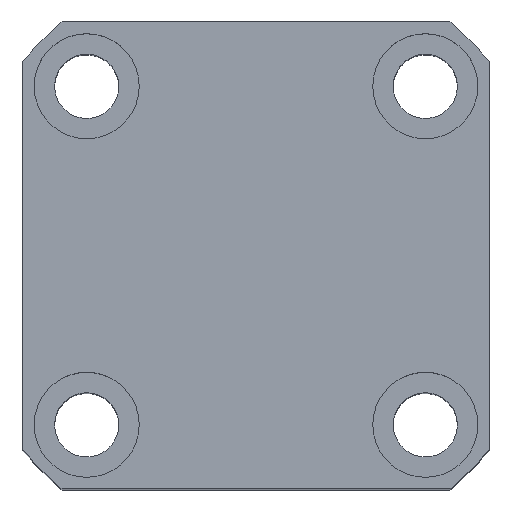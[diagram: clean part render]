
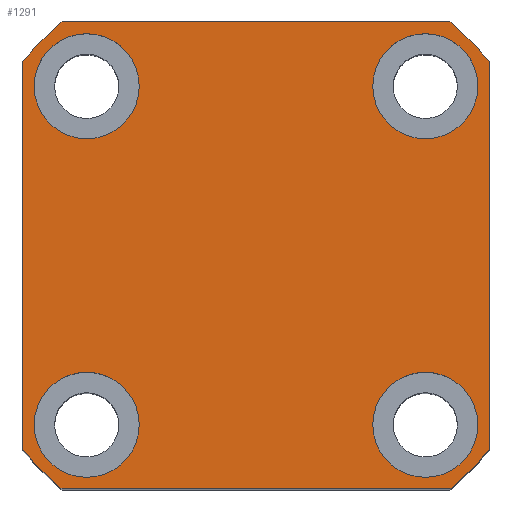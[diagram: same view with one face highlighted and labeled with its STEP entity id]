
A CAD part, top view. The second image highlights one B-rep face of the part: STEP entity #1291.
In plain terms, the highlighted planar face has unit normal (0, 0, 1).
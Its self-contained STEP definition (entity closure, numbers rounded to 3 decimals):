
#125 = VERTEX_POINT ( 'NONE', #3584 ) ;
#185 = EDGE_CURVE ( 'NONE', #8807, #10224, #13264, .T. ) ;
#195 = CARTESIAN_POINT ( 'NONE',  ( 38., 29., 50. ) ) ;
#242 = CIRCLE ( 'NONE', #12110, 9. ) ;
#343 = CARTESIAN_POINT ( 'NONE',  ( 40., -33.226, 50. ) ) ;
#417 = CIRCLE ( 'NONE', #3877, 9. ) ;
#626 = VERTEX_POINT ( 'NONE', #10342 ) ;
#750 = DIRECTION ( 'NONE',  ( 1., 0., 0. ) ) ;
#882 = CARTESIAN_POINT ( 'NONE',  ( 20., 29., 50. ) ) ;
#965 = FACE_BOUND ( 'NONE', #5981, .T. ) ;
#975 = DIRECTION ( 'NONE',  ( 1., 0., 0. ) ) ;
#1291 = ADVANCED_FACE ( 'NONE', ( #7574, #9153, #965, #13962, #12724 ), #11383, .T. ) ;
#1328 = ORIENTED_EDGE ( 'NONE', *, *, #2627, .F. ) ;
#1399 = DIRECTION ( 'NONE',  ( 1., 0., 0. ) ) ;
#1443 = DIRECTION ( 'NONE',  ( 1., 0., 0. ) ) ;
#1520 = DIRECTION ( 'NONE',  ( 1., 0., 0. ) ) ;
#1568 = VERTEX_POINT ( 'NONE', #5078 ) ;
#1877 = VERTEX_POINT ( 'NONE', #7052 ) ;
#1881 = EDGE_LOOP ( 'NONE', ( #3433, #8514 ) ) ;
#1901 = ORIENTED_EDGE ( 'NONE', *, *, #12537, .T. ) ;
#2035 = LINE ( 'NONE', #5200, #9520 ) ;
#2096 = CIRCLE ( 'NONE', #14505, 52. ) ;
#2127 = CARTESIAN_POINT ( 'NONE',  ( 33.226, -40., 50. ) ) ;
#2206 = DIRECTION ( 'NONE',  ( 1., 0., 0. ) ) ;
#2226 = DIRECTION ( 'NONE',  ( 0., 0., 1. ) ) ;
#2316 = AXIS2_PLACEMENT_3D ( 'NONE', #12517, #12382, #2206 ) ;
#2321 = DIRECTION ( 'NONE',  ( 1., 0., 0. ) ) ;
#2333 = CARTESIAN_POINT ( 'NONE',  ( 29., 29., 50. ) ) ;
#2360 = DIRECTION ( 'NONE',  ( 1., 0., 0. ) ) ;
#2367 = DIRECTION ( 'NONE',  ( 0., 0., 1. ) ) ;
#2419 = DIRECTION ( 'NONE',  ( 0., -1., 0. ) ) ;
#2524 = CARTESIAN_POINT ( 'NONE',  ( -29., -29., 50. ) ) ;
#2627 = EDGE_CURVE ( 'NONE', #13309, #3872, #417, .T. ) ;
#2635 = VERTEX_POINT ( 'NONE', #4487 ) ;
#2678 = EDGE_CURVE ( 'NONE', #3521, #10614, #10749, .T. ) ;
#2691 = EDGE_CURVE ( 'NONE', #626, #2635, #9133, .T. ) ;
#3417 = DIRECTION ( 'NONE',  ( 0., 0., 1. ) ) ;
#3433 = ORIENTED_EDGE ( 'NONE', *, *, #14532, .F. ) ;
#3444 = DIRECTION ( 'NONE',  ( 0., 0., 1. ) ) ;
#3521 = VERTEX_POINT ( 'NONE', #882 ) ;
#3569 = DIRECTION ( 'NONE',  ( 1., 0., 0. ) ) ;
#3584 = CARTESIAN_POINT ( 'NONE',  ( 33.226, 40., 50. ) ) ;
#3872 = VERTEX_POINT ( 'NONE', #11472 ) ;
#3877 = AXIS2_PLACEMENT_3D ( 'NONE', #5703, #8015, #9044 ) ;
#4116 = AXIS2_PLACEMENT_3D ( 'NONE', #5668, #2226, #975 ) ;
#4349 = VERTEX_POINT ( 'NONE', #5186 ) ;
#4456 = EDGE_CURVE ( 'NONE', #8508, #626, #9878, .T. ) ;
#4487 = CARTESIAN_POINT ( 'NONE',  ( -40., -33.226, 50. ) ) ;
#4525 = DIRECTION ( 'NONE',  ( 1., 0., 0. ) ) ;
#4692 = EDGE_CURVE ( 'NONE', #3872, #13309, #12063, .T. ) ;
#4746 = ORIENTED_EDGE ( 'NONE', *, *, #11854, .F. ) ;
#4961 = CIRCLE ( 'NONE', #7360, 9. ) ;
#5065 = CIRCLE ( 'NONE', #9897, 52. ) ;
#5078 = CARTESIAN_POINT ( 'NONE',  ( 40., 33.226, 50. ) ) ;
#5093 = ORIENTED_EDGE ( 'NONE', *, *, #2691, .T. ) ;
#5131 = AXIS2_PLACEMENT_3D ( 'NONE', #14753, #3444, #2321 ) ;
#5186 = CARTESIAN_POINT ( 'NONE',  ( -38., -29., 50. ) ) ;
#5200 = CARTESIAN_POINT ( 'NONE',  ( -33.226, 40., 50. ) ) ;
#5613 = AXIS2_PLACEMENT_3D ( 'NONE', #9157, #5685, #4525 ) ;
#5666 = EDGE_LOOP ( 'NONE', ( #1328, #6396 ) ) ;
#5668 = CARTESIAN_POINT ( 'NONE',  ( 29., -29., 50. ) ) ;
#5671 = DIRECTION ( 'NONE',  ( 1., 0., 0. ) ) ;
#5685 = DIRECTION ( 'NONE',  ( 0., 0., 1. ) ) ;
#5703 = CARTESIAN_POINT ( 'NONE',  ( 29., -29., 50. ) ) ;
#5740 = CARTESIAN_POINT ( 'NONE',  ( -40., 33.226, 50. ) ) ;
#5782 = CARTESIAN_POINT ( 'NONE',  ( -29., -29., 50. ) ) ;
#5981 = EDGE_LOOP ( 'NONE', ( #7083, #7029 ) ) ;
#6130 = VECTOR ( 'NONE', #2419, 1000. ) ;
#6139 = VERTEX_POINT ( 'NONE', #12475 ) ;
#6308 = EDGE_CURVE ( 'NONE', #13824, #14059, #5065, .T. ) ;
#6370 = ORIENTED_EDGE ( 'NONE', *, *, #12836, .T. ) ;
#6396 = ORIENTED_EDGE ( 'NONE', *, *, #4692, .F. ) ;
#6465 = AXIS2_PLACEMENT_3D ( 'NONE', #12800, #9459, #1443 ) ;
#6802 = DIRECTION ( 'NONE',  ( 0., 0., 1. ) ) ;
#6884 = EDGE_LOOP ( 'NONE', ( #12101, #4746 ) ) ;
#6925 = VECTOR ( 'NONE', #3569, 1000. ) ;
#7029 = ORIENTED_EDGE ( 'NONE', *, *, #8951, .F. ) ;
#7052 = CARTESIAN_POINT ( 'NONE',  ( -20., -29., 50. ) ) ;
#7083 = ORIENTED_EDGE ( 'NONE', *, *, #185, .F. ) ;
#7084 = CIRCLE ( 'NONE', #9745, 9. ) ;
#7129 = CARTESIAN_POINT ( 'NONE',  ( -33.226, -40., 50. ) ) ;
#7274 = ORIENTED_EDGE ( 'NONE', *, *, #14673, .T. ) ;
#7322 = DIRECTION ( 'NONE',  ( 0., 0., 1. ) ) ;
#7360 = AXIS2_PLACEMENT_3D ( 'NONE', #2333, #3417, #5671 ) ;
#7574 = FACE_BOUND ( 'NONE', #5666, .T. ) ;
#7893 = AXIS2_PLACEMENT_3D ( 'NONE', #7958, #6802, #2360 ) ;
#7958 = CARTESIAN_POINT ( 'NONE',  ( 29., 29., 50. ) ) ;
#8015 = DIRECTION ( 'NONE',  ( 0., 0., 1. ) ) ;
#8372 = DIRECTION ( 'NONE',  ( 0., 0., 1. ) ) ;
#8508 = VERTEX_POINT ( 'NONE', #13566 ) ;
#8514 = ORIENTED_EDGE ( 'NONE', *, *, #2678, .F. ) ;
#8675 = CARTESIAN_POINT ( 'NONE',  ( 0., 0., 50. ) ) ;
#8676 = EDGE_LOOP ( 'NONE', ( #11135, #5093, #6370, #7274, #10825, #10196, #14678, #1901 ) ) ;
#8698 = DIRECTION ( 'NONE',  ( -1., 0., 0. ) ) ;
#8807 = VERTEX_POINT ( 'NONE', #12333 ) ;
#8951 = EDGE_CURVE ( 'NONE', #10224, #8807, #14040, .T. ) ;
#9044 = DIRECTION ( 'NONE',  ( 1., 0., 0. ) ) ;
#9133 = LINE ( 'NONE', #5740, #6130 ) ;
#9153 = FACE_BOUND ( 'NONE', #6884, .T. ) ;
#9157 = CARTESIAN_POINT ( 'NONE',  ( 0., 0., 50. ) ) ;
#9459 = DIRECTION ( 'NONE',  ( 0., 0., 1. ) ) ;
#9520 = VECTOR ( 'NONE', #8698, 1000. ) ;
#9635 = EDGE_CURVE ( 'NONE', #1568, #125, #2096, .T. ) ;
#9666 = DIRECTION ( 'NONE',  ( 1., 0., 0. ) ) ;
#9745 = AXIS2_PLACEMENT_3D ( 'NONE', #2524, #8372, #1520 ) ;
#9796 = EDGE_CURVE ( 'NONE', #1877, #4349, #7084, .T. ) ;
#9805 = DIRECTION ( 'NONE',  ( 0., 0., 1. ) ) ;
#9878 = CIRCLE ( 'NONE', #12271, 52. ) ;
#9897 = AXIS2_PLACEMENT_3D ( 'NONE', #14251, #7322, #9666 ) ;
#9930 = LINE ( 'NONE', #7129, #6925 ) ;
#10196 = ORIENTED_EDGE ( 'NONE', *, *, #10283, .T. ) ;
#10224 = VERTEX_POINT ( 'NONE', #10542 ) ;
#10283 = EDGE_CURVE ( 'NONE', #14059, #1568, #11918, .T. ) ;
#10332 = DIRECTION ( 'NONE',  ( 1., 0., 0. ) ) ;
#10342 = CARTESIAN_POINT ( 'NONE',  ( -40., 33.226, 50. ) ) ;
#10358 = DIRECTION ( 'NONE',  ( 0., 0., 1. ) ) ;
#10450 = VECTOR ( 'NONE', #11017, 1000. ) ;
#10542 = CARTESIAN_POINT ( 'NONE',  ( -38., 29., 50. ) ) ;
#10614 = VERTEX_POINT ( 'NONE', #195 ) ;
#10749 = CIRCLE ( 'NONE', #7893, 9. ) ;
#10825 = ORIENTED_EDGE ( 'NONE', *, *, #6308, .T. ) ;
#11017 = DIRECTION ( 'NONE',  ( 0., 1., 0. ) ) ;
#11135 = ORIENTED_EDGE ( 'NONE', *, *, #4456, .T. ) ;
#11383 = PLANE ( 'NONE',  #5613 ) ;
#11472 = CARTESIAN_POINT ( 'NONE',  ( 20., -29., 50. ) ) ;
#11854 = EDGE_CURVE ( 'NONE', #4349, #1877, #242, .T. ) ;
#11918 = LINE ( 'NONE', #14434, #10450 ) ;
#12063 = CIRCLE ( 'NONE', #4116, 9. ) ;
#12101 = ORIENTED_EDGE ( 'NONE', *, *, #9796, .F. ) ;
#12110 = AXIS2_PLACEMENT_3D ( 'NONE', #5782, #10358, #1399 ) ;
#12271 = AXIS2_PLACEMENT_3D ( 'NONE', #8675, #9805, #750 ) ;
#12333 = CARTESIAN_POINT ( 'NONE',  ( -20., 29., 50. ) ) ;
#12382 = DIRECTION ( 'NONE',  ( 0., 0., 1. ) ) ;
#12475 = CARTESIAN_POINT ( 'NONE',  ( -33.226, -40., 50. ) ) ;
#12517 = CARTESIAN_POINT ( 'NONE',  ( -29., 29., 50. ) ) ;
#12537 = EDGE_CURVE ( 'NONE', #125, #8508, #2035, .T. ) ;
#12724 = FACE_OUTER_BOUND ( 'NONE', #8676, .T. ) ;
#12800 = CARTESIAN_POINT ( 'NONE',  ( -29., 29., 50. ) ) ;
#12836 = EDGE_CURVE ( 'NONE', #2635, #6139, #13424, .T. ) ;
#13264 = CIRCLE ( 'NONE', #6465, 9. ) ;
#13309 = VERTEX_POINT ( 'NONE', #13924 ) ;
#13424 = CIRCLE ( 'NONE', #5131, 52. ) ;
#13566 = CARTESIAN_POINT ( 'NONE',  ( -33.226, 40., 50. ) ) ;
#13809 = CARTESIAN_POINT ( 'NONE',  ( 0., 0., 50. ) ) ;
#13824 = VERTEX_POINT ( 'NONE', #2127 ) ;
#13924 = CARTESIAN_POINT ( 'NONE',  ( 38., -29., 50. ) ) ;
#13962 = FACE_BOUND ( 'NONE', #1881, .T. ) ;
#14040 = CIRCLE ( 'NONE', #2316, 9. ) ;
#14059 = VERTEX_POINT ( 'NONE', #343 ) ;
#14251 = CARTESIAN_POINT ( 'NONE',  ( 0., 0., 50. ) ) ;
#14434 = CARTESIAN_POINT ( 'NONE',  ( 40., 33.226, 50. ) ) ;
#14505 = AXIS2_PLACEMENT_3D ( 'NONE', #13809, #2367, #10332 ) ;
#14532 = EDGE_CURVE ( 'NONE', #10614, #3521, #4961, .T. ) ;
#14673 = EDGE_CURVE ( 'NONE', #6139, #13824, #9930, .T. ) ;
#14678 = ORIENTED_EDGE ( 'NONE', *, *, #9635, .T. ) ;
#14753 = CARTESIAN_POINT ( 'NONE',  ( 0., 0., 50. ) ) ;
